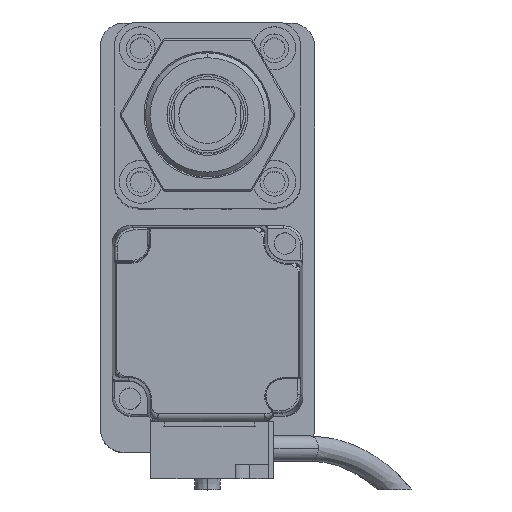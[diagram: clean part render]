
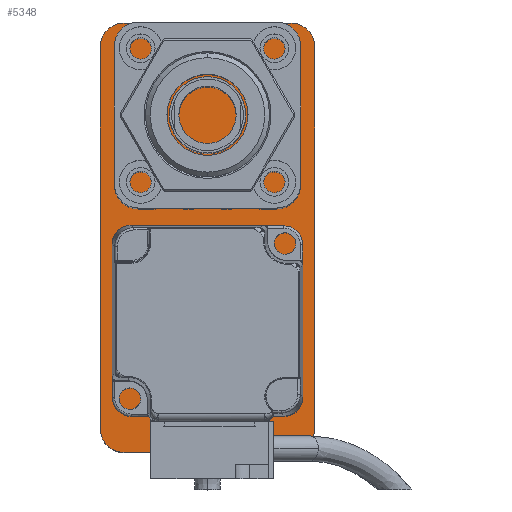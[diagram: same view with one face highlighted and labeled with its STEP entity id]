
A CAD part, top view. The second image highlights one B-rep face of the part: STEP entity #5348.
In plain terms, the highlighted planar face has unit normal (0, 0, 1).
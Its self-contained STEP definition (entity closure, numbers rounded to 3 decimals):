
#276 = VERTEX_POINT ( 'NONE', #13269 ) ;
#823 = EDGE_CURVE ( 'NONE', #12858, #2410, #24116, .T. ) ;
#2047 = LINE ( 'NONE', #18889, #24122 ) ;
#2410 = VERTEX_POINT ( 'NONE', #16497 ) ;
#2814 = ORIENTED_EDGE ( 'NONE', *, *, #17949, .T. ) ;
#3590 = DIRECTION ( 'NONE',  ( 0., -1., 0. ) ) ;
#3934 = EDGE_CURVE ( 'NONE', #5854, #27582, #8793, .T. ) ;
#4262 = DIRECTION ( 'NONE',  ( 0., 0., 1. ) ) ;
#4597 = CIRCLE ( 'NONE', #12493, 5. ) ;
#4640 = DIRECTION ( 'NONE',  ( 1., 0., 0. ) ) ;
#5348 = ADVANCED_FACE ( 'NONE', ( #6740 ), #7339, .T. ) ;
#5369 = CARTESIAN_POINT ( 'NONE',  ( -17.5, -40., 10. ) ) ;
#5854 = VERTEX_POINT ( 'NONE', #20565 ) ;
#6515 = VECTOR ( 'NONE', #12979, 1000. ) ;
#6624 = VECTOR ( 'NONE', #3590, 1000. ) ;
#6740 = FACE_OUTER_BOUND ( 'NONE', #14165, .T. ) ;
#7183 = LINE ( 'NONE', #21752, #6515 ) ;
#7252 = VERTEX_POINT ( 'NONE', #8768 ) ;
#7339 = PLANE ( 'NONE',  #14574 ) ;
#8768 = CARTESIAN_POINT ( 'NONE',  ( 17.5, 45., 10. ) ) ;
#8793 = CIRCLE ( 'NONE', #22267, 5. ) ;
#9326 = DIRECTION ( 'NONE',  ( 0., 0., 1. ) ) ;
#9446 = CARTESIAN_POINT ( 'NONE',  ( 22.5, 40., 10. ) ) ;
#9577 = DIRECTION ( 'NONE',  ( 0., 0., 1. ) ) ;
#9859 = CARTESIAN_POINT ( 'NONE',  ( -22.5, -45., 10. ) ) ;
#10034 = DIRECTION ( 'NONE',  ( 0., 1., 0. ) ) ;
#10712 = EDGE_CURVE ( 'NONE', #7252, #11905, #2047, .T. ) ;
#11524 = AXIS2_PLACEMENT_3D ( 'NONE', #12486, #4262, #19215 ) ;
#11905 = VERTEX_POINT ( 'NONE', #23844 ) ;
#12294 = LINE ( 'NONE', #9859, #6624 ) ;
#12486 = CARTESIAN_POINT ( 'NONE',  ( 17.5, 40., 10. ) ) ;
#12493 = AXIS2_PLACEMENT_3D ( 'NONE', #21201, #25473, #15023 ) ;
#12597 = VECTOR ( 'NONE', #10034, 1000. ) ;
#12858 = VERTEX_POINT ( 'NONE', #25950 ) ;
#12896 = CIRCLE ( 'NONE', #11524, 5. ) ;
#12979 = DIRECTION ( 'NONE',  ( 1., 0., 0. ) ) ;
#13199 = CARTESIAN_POINT ( 'NONE',  ( 22.5, -40., 10. ) ) ;
#13269 = CARTESIAN_POINT ( 'NONE',  ( -22.5, 40., 10. ) ) ;
#13766 = DIRECTION ( 'NONE',  ( 0., 0., 1. ) ) ;
#14165 = EDGE_LOOP ( 'NONE', ( #26291, #23277, #16177, #17389, #25173, #19694, #2814, #18439 ) ) ;
#14574 = AXIS2_PLACEMENT_3D ( 'NONE', #17417, #13766, #4640 ) ;
#15023 = DIRECTION ( 'NONE',  ( 1., 0., 0. ) ) ;
#15810 = EDGE_CURVE ( 'NONE', #276, #12858, #12294, .T. ) ;
#16177 = ORIENTED_EDGE ( 'NONE', *, *, #10712, .T. ) ;
#16497 = CARTESIAN_POINT ( 'NONE',  ( -17.5, -45., 10. ) ) ;
#17389 = ORIENTED_EDGE ( 'NONE', *, *, #19458, .T. ) ;
#17417 = CARTESIAN_POINT ( 'NONE',  ( 0., 0., 10. ) ) ;
#17901 = LINE ( 'NONE', #20692, #12597 ) ;
#17949 = EDGE_CURVE ( 'NONE', #2410, #5854, #7183, .T. ) ;
#18439 = ORIENTED_EDGE ( 'NONE', *, *, #3934, .T. ) ;
#18889 = CARTESIAN_POINT ( 'NONE',  ( 22.5, 45., 10. ) ) ;
#19215 = DIRECTION ( 'NONE',  ( 1., 0., 0. ) ) ;
#19458 = EDGE_CURVE ( 'NONE', #11905, #276, #4597, .T. ) ;
#19694 = ORIENTED_EDGE ( 'NONE', *, *, #823, .T. ) ;
#19848 = EDGE_CURVE ( 'NONE', #27582, #27657, #17901, .T. ) ;
#20565 = CARTESIAN_POINT ( 'NONE',  ( 17.5, -45., 10. ) ) ;
#20692 = CARTESIAN_POINT ( 'NONE',  ( 22.5, -45., 10. ) ) ;
#20763 = EDGE_CURVE ( 'NONE', #27657, #7252, #12896, .T. ) ;
#21201 = CARTESIAN_POINT ( 'NONE',  ( -17.5, 40., 10. ) ) ;
#21254 = DIRECTION ( 'NONE',  ( -1., 0., 0. ) ) ;
#21752 = CARTESIAN_POINT ( 'NONE',  ( 22.5, -45., 10. ) ) ;
#22207 = DIRECTION ( 'NONE',  ( 1., 0., 0. ) ) ;
#22267 = AXIS2_PLACEMENT_3D ( 'NONE', #24151, #9326, #22207 ) ;
#23277 = ORIENTED_EDGE ( 'NONE', *, *, #20763, .T. ) ;
#23844 = CARTESIAN_POINT ( 'NONE',  ( -17.5, 45., 10. ) ) ;
#24116 = CIRCLE ( 'NONE', #26169, 5. ) ;
#24122 = VECTOR ( 'NONE', #21254, 1000. ) ;
#24151 = CARTESIAN_POINT ( 'NONE',  ( 17.5, -40., 10. ) ) ;
#24594 = DIRECTION ( 'NONE',  ( 1., 0., 0. ) ) ;
#25173 = ORIENTED_EDGE ( 'NONE', *, *, #15810, .T. ) ;
#25473 = DIRECTION ( 'NONE',  ( 0., 0., 1. ) ) ;
#25950 = CARTESIAN_POINT ( 'NONE',  ( -22.5, -40., 10. ) ) ;
#26169 = AXIS2_PLACEMENT_3D ( 'NONE', #5369, #9577, #24594 ) ;
#26291 = ORIENTED_EDGE ( 'NONE', *, *, #19848, .T. ) ;
#27582 = VERTEX_POINT ( 'NONE', #13199 ) ;
#27657 = VERTEX_POINT ( 'NONE', #9446 ) ;
